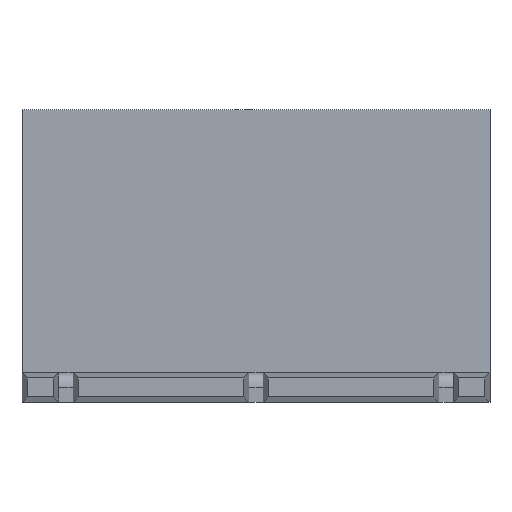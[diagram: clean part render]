
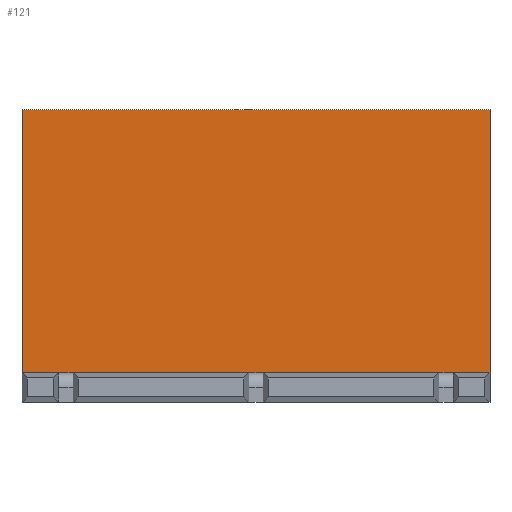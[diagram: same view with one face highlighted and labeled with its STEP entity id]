
A CAD part, top view. The second image highlights one B-rep face of the part: STEP entity #121.
In plain terms, the highlighted planar face has unit normal (0, 0, 1).
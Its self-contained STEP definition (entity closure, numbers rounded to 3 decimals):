
#121=ADVANCED_FACE('',(#485),#487,.T.);
#485=FACE_BOUND('',#486,.T.);
#486=EDGE_LOOP('',(#768,#769,#770,#771,#772,#773,#774,#775,#776,#777));
#487=PLANE('',#488);
#488=AXIS2_PLACEMENT_3D('',#489,#490,#491);
#489=CARTESIAN_POINT('',(0.,0.,8.));
#490=DIRECTION('',(0.,0.,1.));
#491=DIRECTION('',(1.,0.,0.));
#768=ORIENTED_EDGE('',*,*,#919,.T.);
#769=ORIENTED_EDGE('',*,*,#922,.T.);
#770=ORIENTED_EDGE('',*,*,#934,.T.);
#771=ORIENTED_EDGE('',*,*,#942,.F.);
#772=ORIENTED_EDGE('',*,*,#943,.F.);
#773=ORIENTED_EDGE('',*,*,#944,.F.);
#774=ORIENTED_EDGE('',*,*,#945,.F.);
#775=ORIENTED_EDGE('',*,*,#946,.F.);
#776=ORIENTED_EDGE('',*,*,#947,.F.);
#777=ORIENTED_EDGE('',*,*,#938,.F.);
#919=EDGE_CURVE('',#1006,#1015,#1017,.F.);
#922=EDGE_CURVE('',#1015,#1020,#1022,.F.);
#934=EDGE_CURVE('',#1020,#1042,#1044,.T.);
#938=EDGE_CURVE('',#1006,#1047,#1050,.T.);
#942=EDGE_CURVE('',#1056,#1042,#1057,.T.);
#943=EDGE_CURVE('',#1058,#1056,#1059,.T.);
#944=EDGE_CURVE('',#1060,#1058,#1061,.T.);
#945=EDGE_CURVE('',#1062,#1060,#1063,.T.);
#946=EDGE_CURVE('',#1064,#1062,#1065,.T.);
#947=EDGE_CURVE('',#1047,#1064,#1066,.T.);
#1006=VERTEX_POINT('',#1150);
#1015=VERTEX_POINT('',#1167);
#1017=LINE('',#1171,#1172);
#1020=VERTEX_POINT('',#1178);
#1022=LINE('',#1182,#1183);
#1042=VERTEX_POINT('',#1224);
#1044=LINE('',#1228,#1229);
#1047=VERTEX_POINT('',#1235);
#1050=LINE('',#1242,#1243);
#1056=VERTEX_POINT('',#1256);
#1057=LINE('',#1257,#1258);
#1058=VERTEX_POINT('',#1260);
#1059=LINE('',#1261,#1262);
#1060=VERTEX_POINT('',#1264);
#1061=LINE('',#1265,#1266);
#1062=VERTEX_POINT('',#1268);
#1063=LINE('',#1269,#1270);
#1064=VERTEX_POINT('',#1272);
#1065=LINE('',#1273,#1274);
#1066=LINE('',#1276,#1277);
#1150=CARTESIAN_POINT('',(32.,2.,8.));
#1167=CARTESIAN_POINT('',(32.,20.,8.));
#1171=CARTESIAN_POINT('',(32.,20.,8.));
#1172=VECTOR('',#1173,1.);
#1173=DIRECTION('',(0.,-1.,0.));
#1178=CARTESIAN_POINT('',(0.,20.,8.));
#1182=CARTESIAN_POINT('',(0.,20.,8.));
#1183=VECTOR('',#1184,1.);
#1184=DIRECTION('',(1.,0.,0.));
#1224=CARTESIAN_POINT('',(0.,2.,8.));
#1228=CARTESIAN_POINT('',(0.,20.,8.));
#1229=VECTOR('',#1230,1.);
#1230=DIRECTION('',(0.,-1.,0.));
#1235=CARTESIAN_POINT('',(29.5,2.,8.));
#1242=CARTESIAN_POINT('',(32.,2.,8.));
#1243=VECTOR('',#1244,1.);
#1244=DIRECTION('',(-1.,0.,0.));
#1256=CARTESIAN_POINT('',(2.5,2.,8.));
#1257=CARTESIAN_POINT('',(2.5,2.,8.));
#1258=VECTOR('',#1259,1.);
#1259=DIRECTION('',(-1.,0.,0.));
#1260=CARTESIAN_POINT('',(3.5,2.,8.));
#1261=CARTESIAN_POINT('',(3.5,2.,8.));
#1262=VECTOR('',#1263,1.);
#1263=DIRECTION('',(-1.,0.,0.));
#1264=CARTESIAN_POINT('',(15.5,2.,8.));
#1265=CARTESIAN_POINT('',(15.5,2.,8.));
#1266=VECTOR('',#1267,1.);
#1267=DIRECTION('',(-1.,0.,0.));
#1268=CARTESIAN_POINT('',(16.5,2.,8.));
#1269=CARTESIAN_POINT('',(16.5,2.,8.));
#1270=VECTOR('',#1271,1.);
#1271=DIRECTION('',(-1.,0.,0.));
#1272=CARTESIAN_POINT('',(28.5,2.,8.));
#1273=CARTESIAN_POINT('',(28.5,2.,8.));
#1274=VECTOR('',#1275,1.);
#1275=DIRECTION('',(-1.,0.,0.));
#1276=CARTESIAN_POINT('',(29.5,2.,8.));
#1277=VECTOR('',#1278,1.);
#1278=DIRECTION('',(-1.,0.,0.));
